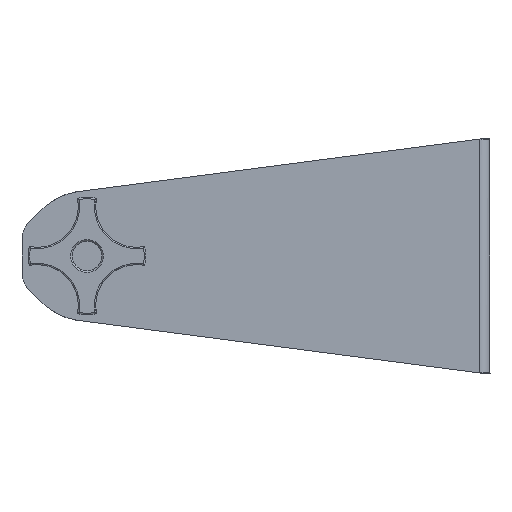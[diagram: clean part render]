
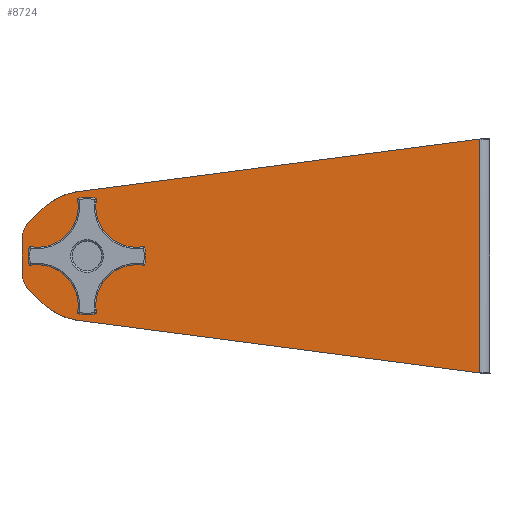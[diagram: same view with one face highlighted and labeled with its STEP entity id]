
A CAD part, left-side view. The second image highlights one B-rep face of the part: STEP entity #8724.
In plain terms, the highlighted planar face has unit normal (-1, 0, 0).
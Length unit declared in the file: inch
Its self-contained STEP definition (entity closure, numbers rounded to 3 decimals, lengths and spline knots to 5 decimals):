
#13 = VERTEX_POINT ( 'NONE', #7474 ) ;
#43 = ORIENTED_EDGE ( 'NONE', *, *, #4798, .F. ) ;
#99 = ORIENTED_EDGE ( 'NONE', *, *, #10543, .F. ) ;
#909 = VERTEX_POINT ( 'NONE', #4257 ) ;
#965 = ORIENTED_EDGE ( 'NONE', *, *, #2633, .F. ) ;
#984 = VERTEX_POINT ( 'NONE', #5801 ) ;
#1022 = DIRECTION ( 'NONE',  ( 1., 0., 0. ) ) ;
#1128 = CARTESIAN_POINT ( 'NONE',  ( -9.5125, 0.196, -2.24895 ) ) ;
#1272 = CIRCLE ( 'NONE', #8152, 0.5 ) ;
#1292 = ORIENTED_EDGE ( 'NONE', *, *, #10382, .T. ) ;
#1509 = AXIS2_PLACEMENT_3D ( 'NONE', #10097, #5008, #10944 ) ;
#1513 = CIRCLE ( 'NONE', #1509, 0.1955 ) ;
#1545 = EDGE_CURVE ( 'NONE', #2460, #8145, #10602, .T. ) ;
#1568 = AXIS2_PLACEMENT_3D ( 'NONE', #6149, #1022, #7008 ) ;
#1626 = EDGE_CURVE ( 'NONE', #4018, #909, #3800, .T. ) ;
#1712 = CARTESIAN_POINT ( 'NONE',  ( -9.5125, 0.196, 2.24895 ) ) ;
#2222 = CARTESIAN_POINT ( 'NONE',  ( -9.5125, 0.196, 0. ) ) ;
#2239 = ORIENTED_EDGE ( 'NONE', *, *, #2940, .F. ) ;
#2366 = CARTESIAN_POINT ( 'NONE',  ( -9.5125, 9., -0.31 ) ) ;
#2460 = VERTEX_POINT ( 'NONE', #9085 ) ;
#2500 = CARTESIAN_POINT ( 'NONE',  ( -9.5125, 7.75, 0. ) ) ;
#2526 = DIRECTION ( 'NONE',  ( 1., 0., 0. ) ) ;
#2532 = VECTOR ( 'NONE', #5435, 39.37008 ) ;
#2584 = VERTEX_POINT ( 'NONE', #2366 ) ;
#2633 = EDGE_CURVE ( 'NONE', #909, #2584, #7929, .T. ) ;
#2869 = CARTESIAN_POINT ( 'NONE',  ( -9.5125, 0.188, -2.25 ) ) ;
#2940 = EDGE_CURVE ( 'NONE', #9379, #5295, #1272, .T. ) ;
#3046 = CARTESIAN_POINT ( 'NONE',  ( -9.5125, 8.5, 0.31 ) ) ;
#3345 = DIRECTION ( 'NONE',  ( 0., -1., 0. ) ) ;
#3669 = EDGE_CURVE ( 'NONE', #9913, #984, #4474, .T. ) ;
#3713 = CARTESIAN_POINT ( 'NONE',  ( -9.5125, 8.63521, -0.88255 ) ) ;
#3800 = LINE ( 'NONE', #7888, #10086 ) ;
#3897 = DIRECTION ( 'NONE',  ( 0., -1., 0. ) ) ;
#4018 = VERTEX_POINT ( 'NONE', #3713 ) ;
#4257 = CARTESIAN_POINT ( 'NONE',  ( -9.5125, 8.85408, -0.66302 ) ) ;
#4474 = CIRCLE ( 'NONE', #7745, 0.1955 ) ;
#4656 = FACE_BOUND ( 'NONE', #6819, .T. ) ;
#4798 = EDGE_CURVE ( 'NONE', #2584, #9379, #7816, .T. ) ;
#4939 = FACE_OUTER_BOUND ( 'NONE', #8836, .T. ) ;
#4967 = PLANE ( 'NONE',  #9632 ) ;
#4996 = CARTESIAN_POINT ( 'NONE',  ( -9.5125, 7.91216, 1.23944 ) ) ;
#5008 = DIRECTION ( 'NONE',  ( 1., 0., 0. ) ) ;
#5076 = CARTESIAN_POINT ( 'NONE',  ( -9.5125, 7.75, 0. ) ) ;
#5295 = VERTEX_POINT ( 'NONE', #9181 ) ;
#5387 = VERTEX_POINT ( 'NONE', #1712 ) ;
#5435 = DIRECTION ( 'NONE',  ( 0., 0.992, 0.13 ) ) ;
#5512 = AXIS2_PLACEMENT_3D ( 'NONE', #7648, #2526, #8500 ) ;
#5614 = CARTESIAN_POINT ( 'NONE',  ( -9.5125, 9., 0.31 ) ) ;
#5801 = CARTESIAN_POINT ( 'NONE',  ( -9.5125, 7.5545, 0. ) ) ;
#5814 = ORIENTED_EDGE ( 'NONE', *, *, #7968, .F. ) ;
#5829 = DIRECTION ( 'NONE',  ( 0., 1., 0. ) ) ;
#5919 = DIRECTION ( 'NONE',  ( 0., -1., 0. ) ) ;
#5940 = LINE ( 'NONE', #8283, #7915 ) ;
#5986 = CARTESIAN_POINT ( 'NONE',  ( -9.5125, 0.188, 2.25 ) ) ;
#6149 = CARTESIAN_POINT ( 'NONE',  ( -9.5125, 7.75, 0. ) ) ;
#6819 = EDGE_LOOP ( 'NONE', ( #8807, #1292 ) ) ;
#7008 = DIRECTION ( 'NONE',  ( 0., -1., 0. ) ) ;
#7315 = VERTEX_POINT ( 'NONE', #1128 ) ;
#7441 = CARTESIAN_POINT ( 'NONE',  ( -9.5125, 7.9455, 0. ) ) ;
#7474 = CARTESIAN_POINT ( 'NONE',  ( -9.5125, 7.91216, -1.23944 ) ) ;
#7564 = VECTOR ( 'NONE', #8465, 39.37008 ) ;
#7616 = CARTESIAN_POINT ( 'NONE',  ( -9.5125, 9., 0.31 ) ) ;
#7648 = CARTESIAN_POINT ( 'NONE',  ( -9.5125, 8.5, -0.31 ) ) ;
#7745 = AXIS2_PLACEMENT_3D ( 'NONE', #5076, #11006, #5919 ) ;
#7816 = LINE ( 'NONE', #7616, #7564 ) ;
#7856 = DIRECTION ( 'NONE',  ( 0., 0.706, 0.708 ) ) ;
#7888 = CARTESIAN_POINT ( 'NONE',  ( -9.5125, 8.85408, -0.66302 ) ) ;
#7913 = ORIENTED_EDGE ( 'NONE', *, *, #10627, .F. ) ;
#7915 = VECTOR ( 'NONE', #9136, 39.37008 ) ;
#7929 = CIRCLE ( 'NONE', #5512, 0.5 ) ;
#7968 = EDGE_CURVE ( 'NONE', #7315, #13, #9065, .T. ) ;
#8145 = VERTEX_POINT ( 'NONE', #4996 ) ;
#8152 = AXIS2_PLACEMENT_3D ( 'NONE', #3046, #9017, #3897 ) ;
#8214 = DIRECTION ( 'NONE',  ( 0., 0., 1. ) ) ;
#8283 = CARTESIAN_POINT ( 'NONE',  ( -9.5125, 8.85408, 0.66302 ) ) ;
#8397 = AXIS2_PLACEMENT_3D ( 'NONE', #2500, #8473, #3345 ) ;
#8464 = VECTOR ( 'NONE', #9383, 39.37008 ) ;
#8465 = DIRECTION ( 'NONE',  ( 0., 0., 1. ) ) ;
#8473 = DIRECTION ( 'NONE',  ( 1., 0., 0. ) ) ;
#8500 = DIRECTION ( 'NONE',  ( 0., -1., 0. ) ) ;
#8547 = ORIENTED_EDGE ( 'NONE', *, *, #1626, .F. ) ;
#8564 = ORIENTED_EDGE ( 'NONE', *, *, #9813, .T. ) ;
#8699 = VECTOR ( 'NONE', #8214, 39.37008 ) ;
#8724 = ADVANCED_FACE ( 'NONE', ( #4656, #4939 ), #4967, .T. ) ;
#8807 = ORIENTED_EDGE ( 'NONE', *, *, #3669, .T. ) ;
#8836 = EDGE_LOOP ( 'NONE', ( #5814, #8564, #7913, #10992, #10895, #2239, #43, #965, #8547, #99 ) ) ;
#8985 = LINE ( 'NONE', #2222, #8699 ) ;
#9017 = DIRECTION ( 'NONE',  ( 1., 0., 0. ) ) ;
#9065 = LINE ( 'NONE', #2869, #2532 ) ;
#9085 = CARTESIAN_POINT ( 'NONE',  ( -9.5125, 8.63521, 0.88255 ) ) ;
#9136 = DIRECTION ( 'NONE',  ( 0., -0.706, 0.708 ) ) ;
#9181 = CARTESIAN_POINT ( 'NONE',  ( -9.5125, 8.85408, 0.66302 ) ) ;
#9250 = CIRCLE ( 'NONE', #8397, 1.25 ) ;
#9379 = VERTEX_POINT ( 'NONE', #5614 ) ;
#9383 = DIRECTION ( 'NONE',  ( 0., -0.992, 0.13 ) ) ;
#9632 = AXIS2_PLACEMENT_3D ( 'NONE', #10017, #10910, #5829 ) ;
#9813 = EDGE_CURVE ( 'NONE', #7315, #5387, #8985, .T. ) ;
#9908 = EDGE_CURVE ( 'NONE', #5295, #2460, #5940, .T. ) ;
#9913 = VERTEX_POINT ( 'NONE', #7441 ) ;
#10017 = CARTESIAN_POINT ( 'NONE',  ( -9.5125, 7.75, 0. ) ) ;
#10086 = VECTOR ( 'NONE', #7856, 39.37008 ) ;
#10097 = CARTESIAN_POINT ( 'NONE',  ( -9.5125, 7.75, 0. ) ) ;
#10382 = EDGE_CURVE ( 'NONE', #984, #9913, #1513, .T. ) ;
#10543 = EDGE_CURVE ( 'NONE', #13, #4018, #9250, .T. ) ;
#10602 = CIRCLE ( 'NONE', #1568, 1.25 ) ;
#10627 = EDGE_CURVE ( 'NONE', #8145, #5387, #10715, .T. ) ;
#10715 = LINE ( 'NONE', #5986, #8464 ) ;
#10895 = ORIENTED_EDGE ( 'NONE', *, *, #9908, .F. ) ;
#10910 = DIRECTION ( 'NONE',  ( -1., 0., 0. ) ) ;
#10944 = DIRECTION ( 'NONE',  ( 0., -1., 0. ) ) ;
#10992 = ORIENTED_EDGE ( 'NONE', *, *, #1545, .F. ) ;
#11006 = DIRECTION ( 'NONE',  ( 1., 0., 0. ) ) ;
